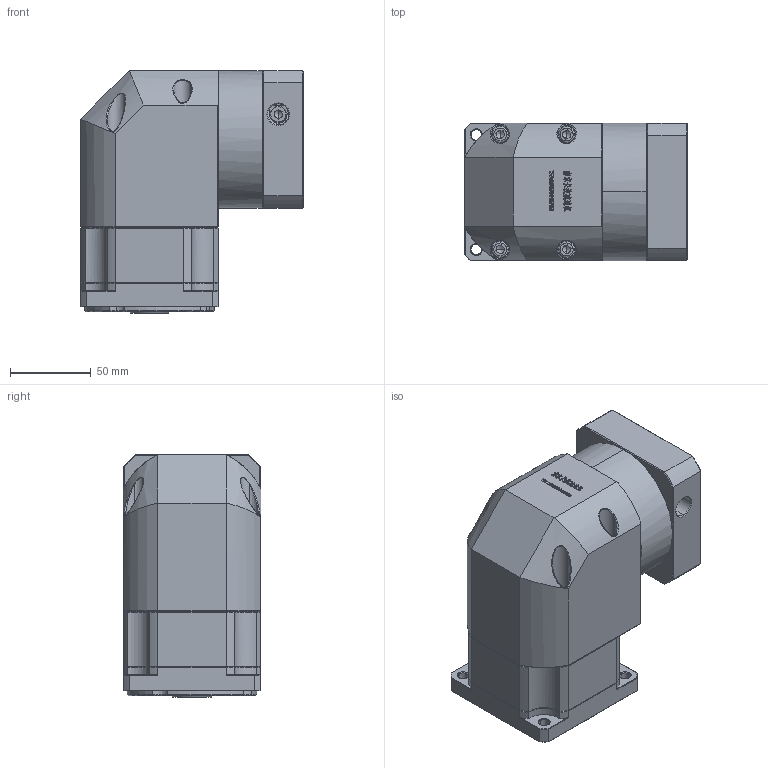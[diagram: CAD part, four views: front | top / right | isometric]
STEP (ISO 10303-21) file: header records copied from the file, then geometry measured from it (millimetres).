
FILE_DESCRIPTION (( 'STEP AP214' ), '1' );
FILE_NAME ('ZBR90-K15-L1-14-60-75-M6.step', '2022-05-07T15:09:27', ( '' ), ( 'Microsoft' ), 'SwSTEP 2.0', 'SolidWorks 2016', '' );
FILE_SCHEMA (( 'AUTOMOTIVE_DESIGN' ));
Length unit declared in the file: millimetre
Products named in the file (1): ZBR90-K15-L1-14-60-75-M6
Bounding box: 137.6 x 85 x 150 mm (x, y, z)
Volume: 1174295 mm3; surface area: 127993.6 mm2
Topology: 5 solids, 5 shells, 2959 faces, 7830 edges, 5003 vertices
Faces by surface type: plane 1589, bspline 596, cylinder 412, cone 338, torus 24
Entity records: 157806 total; most frequent: CARTESIAN_POINT 56614, ORIENTED_EDGE 15588, DIRECTION 11919, EDGE_CURVE 7794, LINE 5269, VECTOR 5269, VERTEX_POINT 5003, AXIS2_PLACEMENT_3D 3325
